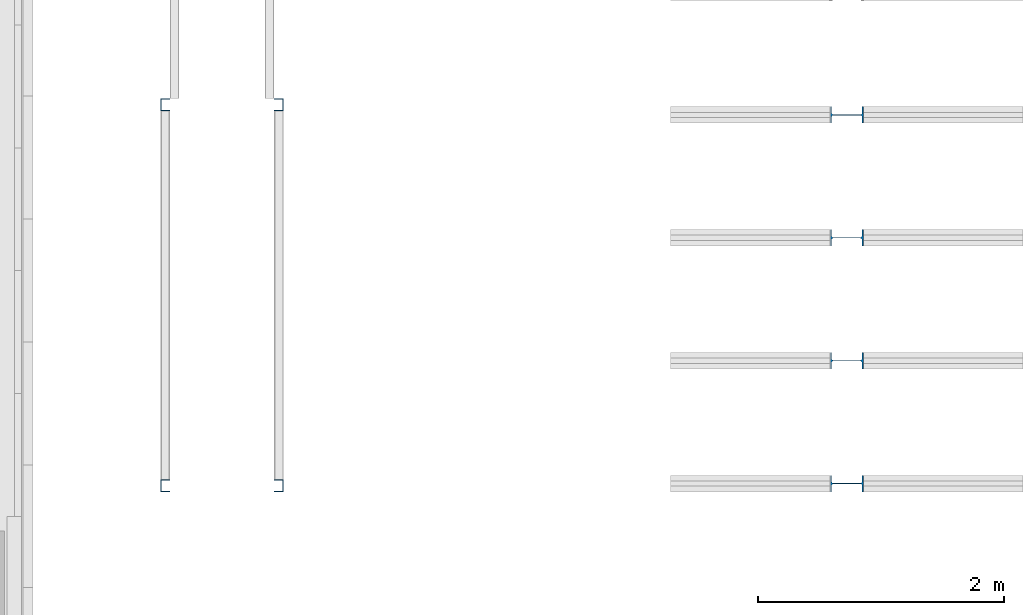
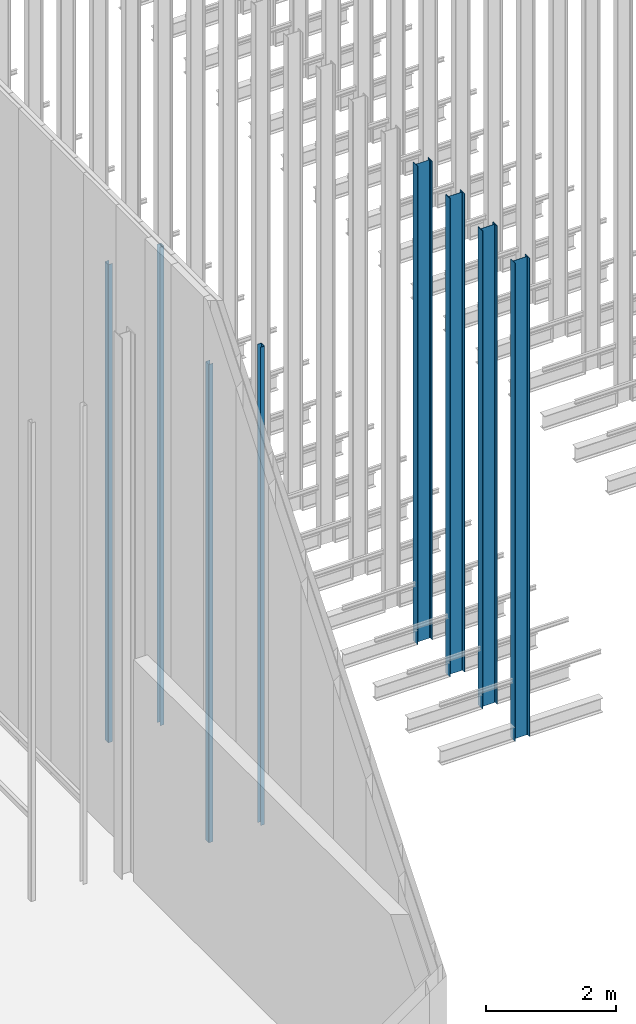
# One storey, part 45 of 302: 8 columns.
"""IFC2X3 building model written with IfcOpenShell, lengths in metres."""

from ifc_helpers import new_model, entity, si_unit, converted_unit, derived_unit, direction, frame, frame_2d, origin, place, context, subcontext, project, spatial, polyline, circle_curve, parameter, trimmed, segment, composite_curve, outline, extrude, source, transform, mapped, material, type_object, type_shapes, element, save


model = new_model("IFC2X3")

# Units and contexts
model_context = context("Model", 3, precision=1e-05, world=origin(), true_north=direction((6.12303176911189e-17, 1.0)))
body_context = subcontext(model_context, "Body", "Model", "MODEL_VIEW")
ifc_project = project(units=[si_unit("LENGTHUNIT", "METRE"), si_unit("AREAUNIT", "SQUARE_METRE"), si_unit("VOLUMEUNIT", "CUBIC_METRE"), converted_unit("PLANEANGLEUNIT", "DEGREE", entity("IfcRatioMeasure", 0.0174532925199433), si_unit("PLANEANGLEUNIT", "RADIAN"), dimensions=[0, 0, 0, 0, 0, 0, 0]), si_unit("MASSUNIT", "GRAM", prefix="KILO"), derived_unit("MASSDENSITYUNIT", [(si_unit("MASSUNIT", "GRAM", prefix="KILO"), 1), (si_unit("LENGTHUNIT", "METRE"), -3)]), derived_unit("MOMENTOFINERTIAUNIT", [(si_unit("LENGTHUNIT", "METRE"), 4)]), si_unit("TIMEUNIT", "SECOND"), si_unit("FREQUENCYUNIT", "HERTZ"), si_unit("THERMODYNAMICTEMPERATUREUNIT", "DEGREE_CELSIUS"), derived_unit("THERMALTRANSMITTANCEUNIT", [(si_unit("MASSUNIT", "GRAM", prefix="KILO"), 1), (si_unit("THERMODYNAMICTEMPERATUREUNIT", "KELVIN"), -1), (si_unit("TIMEUNIT", "SECOND"), -3)]), derived_unit("VOLUMETRICFLOWRATEUNIT", [(si_unit("LENGTHUNIT", "METRE"), 3), (si_unit("TIMEUNIT", "SECOND"), -1)]), si_unit("ELECTRICCURRENTUNIT", "AMPERE"), si_unit("ELECTRICVOLTAGEUNIT", "VOLT"), si_unit("POWERUNIT", "WATT"), si_unit("FORCEUNIT", "NEWTON", prefix="KILO"), si_unit("ILLUMINANCEUNIT", "LUX"), si_unit("LUMINOUSFLUXUNIT", "LUMEN"), si_unit("LUMINOUSINTENSITYUNIT", "CANDELA"), derived_unit("USERDEFINED", [(si_unit("MASSUNIT", "GRAM", prefix="KILO"), -1), (si_unit("LENGTHUNIT", "METRE"), -2), (si_unit("TIMEUNIT", "SECOND"), 3), (si_unit("LUMINOUSFLUXUNIT", "LUMEN"), 1)]), derived_unit("LINEARVELOCITYUNIT", [(si_unit("LENGTHUNIT", "METRE"), 1), (si_unit("TIMEUNIT", "SECOND"), -1)]), si_unit("PRESSUREUNIT", "PASCAL"), derived_unit("USERDEFINED", [(si_unit("LENGTHUNIT", "METRE"), -2), (si_unit("MASSUNIT", "GRAM", prefix="KILO"), 1), (si_unit("TIMEUNIT", "SECOND"), -2)]), derived_unit("LINEARFORCEUNIT", [(si_unit("MASSUNIT", "GRAM", prefix="KILO"), 1), (si_unit("LENGTHUNIT", "METRE"), 1), (si_unit("TIMEUNIT", "SECOND"), -2), (si_unit("LENGTHUNIT", "METRE"), -1)]), derived_unit("PLANARFORCEUNIT", [(si_unit("MASSUNIT", "GRAM", prefix="KILO"), 1), (si_unit("LENGTHUNIT", "METRE"), 1), (si_unit("TIMEUNIT", "SECOND"), -2), (si_unit("LENGTHUNIT", "METRE"), -2)])], contexts=[model_context])

# Site, building, storey
site_placement = place(None, origin())
site = spatial("IfcSite", under=ifc_project, at=site_placement, Name="Default", CompositionType="ELEMENT")
building_placement = place(site_placement, origin())
building = spatial("IfcBuilding", under=site, at=building_placement, CompositionType="ELEMENT")
storey_placement = place(building_placement, frame((0.0, 0.0, -1.3)))
storey = spatial("IfcBuildingStorey", under=building, at=storey_placement, Name="00_EG", CompositionType="ELEMENT", Elevation=-1.3)

# Columns
ifc_material = material(Name="Metall - Baustahl S235")
column_type_1 = type_object("IfcColumnType", Name="Leichter Stahl Schlossschrauben Stütze:C 100", PredefinedType="COLUMN", material=ifc_material)
shared_shape_1 = source(origin(), body_context, "Body", "SweptSolid", [
    extrude(outline(composite_curve([segment(polyline([(-0.0469749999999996, -0.0499999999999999), (0.0214500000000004, -0.0499999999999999)]), True, "CONTINUOUS"), segment(trimmed(circle_curve(frame_2d((0.0214500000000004, -0.0434249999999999), x_axis=(0.0, -1.0)), 0.00657500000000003), [parameter(0.0)], [parameter(89.9999999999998)], True, "PARAMETER"), True, "CONTINUOUS"), segment(polyline([(0.0280250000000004, -0.0434249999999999), (0.0280250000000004, 0.0434250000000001)]), True, "CONTINUOUS"), segment(trimmed(circle_curve(frame_2d((0.0214500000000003, 0.0434250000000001), x_axis=(1.0, 0.0)), 0.0065750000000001), [parameter(0.0)], [parameter(89.9999999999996)], True, "PARAMETER"), True, "CONTINUOUS"), segment(polyline([(0.0214500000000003, 0.0500000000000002), (-0.0469750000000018, 0.0500000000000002)]), True, "CONTINUOUS"), segment(polyline([(-0.0469750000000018, 0.0500000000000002), (-0.0469750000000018, 0.0450000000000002)]), True, "CONTINUOUS"), segment(polyline([(-0.0469750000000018, 0.0450000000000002), (0.0214500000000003, 0.0450000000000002)]), True, "CONTINUOUS"), segment(trimmed(circle_curve(frame_2d((0.0214500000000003, 0.0434249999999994), x_axis=(0.0, 1.0)), 0.00157500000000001), [parameter(269.999999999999)], [parameter(0.0)], True, "PARAMETER"), False, "CONTINUOUS"), segment(polyline([(0.0230250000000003, 0.0434249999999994), (0.0230250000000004, -0.0434249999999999)]), True, "CONTINUOUS"), segment(trimmed(circle_curve(frame_2d((0.0214500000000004, -0.0434249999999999), x_axis=(1.0, 0.0)), 0.00157500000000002), [parameter(270.0)], [parameter(0.0)], True, "PARAMETER"), False, "CONTINUOUS"), segment(polyline([(0.0214500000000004, -0.0449999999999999), (-0.0469749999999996, -0.0449999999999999)]), True, "CONTINUOUS"), segment(polyline([(-0.0469749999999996, -0.0449999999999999), (-0.0469749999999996, -0.0499999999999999)]), True, "CONTINUOUS")], self_intersect=False)), frame((0.0499999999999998, 0.0280250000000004, -0.0300000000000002), z_axis=(0.0, 0.0, 1.0), x_axis=(0.0, -1.0, 0.0)), (0.0, 0.0, 1.0), 9.0),
])
type_shapes(column_type_1, [shared_shape_1])
for number, where, z_axis, x_axis in (
    (1, (-176.230111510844, 27.148088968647, 1.3), (0.0, 0.0, 1.0), (0.0, -1.0, 0.0)),
    (2, (-176.230111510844, 24.048088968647, 1.3), (0.0, 0.0, 1.0), (0.0, -1.0, 0.0)),
):
    element("IfcColumn", number, at=place(storey_placement, frame(where, z_axis=z_axis, x_axis=x_axis)), inside=storey, type_object=column_type_1, material=ifc_material, Name="Leichter Stahl Schlossschrauben Stütze:C 100", ObjectType="Leichter Stahl Schlossschrauben Stütze:C 100", context=body_context, shape_type="MappedRepresentation", body=[
        mapped(shared_shape_1, transform((0.0, 0.0, 0.0), scale=1.0)),
    ])
column_type_2 = type_object("IfcColumnType", Name="Leichter Stahl Schlossschrauben Stütze:C 100", PredefinedType="COLUMN", material=ifc_material)
shared_shape_2 = source(origin(), body_context, "Body", "SweptSolid", [
    extrude(outline(composite_curve([segment(polyline([(-0.0214500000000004, -0.0499999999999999), (0.0469749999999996, -0.0499999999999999)]), True, "CONTINUOUS"), segment(polyline([(0.0469749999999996, -0.0499999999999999), (0.0469749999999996, -0.0449999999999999)]), True, "CONTINUOUS"), segment(polyline([(0.0469749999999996, -0.0449999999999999), (-0.0214500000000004, -0.045)]), True, "CONTINUOUS"), segment(trimmed(circle_curve(frame_2d((-0.0214500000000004, -0.043425), x_axis=(0.0, -1.0)), 0.00157500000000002), [parameter(270.0)], [parameter(0.0)], True, "PARAMETER"), False, "CONTINUOUS"), segment(polyline([(-0.0230250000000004, -0.0434249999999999), (-0.0230250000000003, 0.0434249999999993)]), True, "CONTINUOUS"), segment(trimmed(circle_curve(frame_2d((-0.0214500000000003, 0.0434249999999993), x_axis=(-1.0, 0.0)), 0.00157500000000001), [parameter(269.999999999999)], [parameter(0.0)], True, "PARAMETER"), False, "CONTINUOUS"), segment(polyline([(-0.0214500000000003, 0.0450000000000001), (0.0469750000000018, 0.0450000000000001)]), True, "CONTINUOUS"), segment(polyline([(0.0469750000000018, 0.0450000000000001), (0.0469750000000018, 0.0500000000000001)]), True, "CONTINUOUS"), segment(polyline([(0.0469750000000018, 0.0500000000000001), (-0.0214500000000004, 0.0500000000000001)]), True, "CONTINUOUS"), segment(trimmed(circle_curve(frame_2d((-0.0214500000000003, 0.043425), x_axis=(0.0, 1.0)), 0.0065750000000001), [parameter(0.0)], [parameter(89.9999999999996)], True, "PARAMETER"), True, "CONTINUOUS"), segment(polyline([(-0.0280250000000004, 0.043425), (-0.0280250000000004, -0.043425)]), True, "CONTINUOUS"), segment(trimmed(circle_curve(frame_2d((-0.0214500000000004, -0.0434249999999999), x_axis=(-1.0, 0.0)), 0.00657500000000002), [parameter(0.0)], [parameter(89.9999999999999)], True, "PARAMETER"), True, "CONTINUOUS")], self_intersect=False)), frame((0.0499999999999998, -0.0280250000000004, -0.0300000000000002), z_axis=(0.0, 0.0, 1.0), x_axis=(0.0, -1.0, 0.0)), (0.0, 0.0, 1.0), 9.0),
])
type_shapes(column_type_2, [shared_shape_2])
for number, where, z_axis, x_axis in (
    (3, (-175.230111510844, 27.148088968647, 1.3), (0.0, 0.0, 1.0), (0.0, -1.0, 0.0)),
    (4, (-175.230111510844, 24.048088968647, 1.3), (0.0, 0.0, 1.0), (0.0, -1.0, 0.0)),
):
    element("IfcColumn", number, at=place(storey_placement, frame(where, z_axis=z_axis, x_axis=x_axis)), inside=storey, type_object=column_type_2, material=ifc_material, Name="Leichter Stahl Schlossschrauben Stütze:C 100", ObjectType="Leichter Stahl Schlossschrauben Stütze:C 100", context=body_context, shape_type="MappedRepresentation", body=[
        mapped(shared_shape_2, transform((0.0, 0.0, 0.0), scale=1.0)),
    ])
column_type_3 = type_object("IfcColumnType", Name="IPE Stütze:IPE 270", PredefinedType="COLUMN", material=ifc_material)
shared_shape_3 = source(origin(), body_context, "Body", "SweptSolid", [
    extrude(outline(composite_curve([segment(polyline([(0.1248, -0.0675), (0.135, -0.0675)]), True, "CONTINUOUS"), segment(polyline([(0.135, -0.0675), (0.135, 0.0675)]), True, "CONTINUOUS"), segment(polyline([(0.135, 0.0675), (0.1248, 0.0675)]), True, "CONTINUOUS"), segment(polyline([(0.1248, 0.0675), (0.1248, 0.0183)]), True, "CONTINUOUS"), segment(trimmed(circle_curve(frame_2d((0.1098, 0.0183), x_axis=(1.0, 0.0)), 0.015), [parameter(270.0)], [parameter(0.0)], True, "PARAMETER"), False, "CONTINUOUS"), segment(polyline([(0.1098, 0.0033), (-0.1098, 0.0033)]), True, "CONTINUOUS"), segment(trimmed(circle_curve(frame_2d((-0.1098, 0.0183), x_axis=(0.0, -1.0)), 0.015), [parameter(270.0)], [parameter(0.0)], True, "PARAMETER"), False, "CONTINUOUS"), segment(polyline([(-0.1248, 0.0183), (-0.1248, 0.0675)]), True, "CONTINUOUS"), segment(polyline([(-0.1248, 0.0675), (-0.135, 0.0675)]), True, "CONTINUOUS"), segment(polyline([(-0.135, 0.0675), (-0.135, -0.0675)]), True, "CONTINUOUS"), segment(polyline([(-0.135, -0.0675), (-0.1248, -0.0675)]), True, "CONTINUOUS"), segment(polyline([(-0.1248, -0.0675), (-0.1248, -0.0183)]), True, "CONTINUOUS"), segment(trimmed(circle_curve(frame_2d((-0.1098, -0.0183), x_axis=(-1.0, 0.0)), 0.015), [parameter(269.999999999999)], [parameter(0.0)], True, "PARAMETER"), False, "CONTINUOUS"), segment(polyline([(-0.1098, -0.0033), (0.1098, -0.0033)]), True, "CONTINUOUS"), segment(trimmed(circle_curve(frame_2d((0.1098, -0.0183), x_axis=(0.0, 1.0)), 0.015), [parameter(270.0)], [parameter(0.0)], True, "PARAMETER"), False, "CONTINUOUS"), segment(polyline([(0.1248, -0.0183), (0.1248, -0.0675)]), True, "CONTINUOUS")], self_intersect=False)), frame((0.0, 0.0, -0.0300000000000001), z_axis=(0.0, 0.0, 1.0), x_axis=(0.0, -1.0, 0.0)), (0.0, 0.0, 1.0), 9.0),
])
type_shapes(column_type_3, [shared_shape_3])
for number, where, z_axis, x_axis in (
    (5, (-170.645111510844, 27.015588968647, 1.3), (0.0, 0.0, 1.0), (0.0, 1.0, 0.0)),
    (6, (-170.645111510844, 26.015588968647, 1.3), (0.0, 0.0, 1.0), (0.0, 1.0, 0.0)),
    (7, (-170.645111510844, 25.015588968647, 1.3), (0.0, 0.0, 1.0), (0.0, 1.0, 0.0)),
    (8, (-170.645111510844, 24.015588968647, 1.3), (0.0, 0.0, 1.0), (0.0, 1.0, 0.0)),
):
    element("IfcColumn", number, at=place(storey_placement, frame(where, z_axis=z_axis, x_axis=x_axis)), inside=storey, type_object=column_type_3, material=ifc_material, Name="IPE Stütze:IPE 270", ObjectType="IPE Stütze:IPE 270", context=body_context, shape_type="MappedRepresentation", body=[
        mapped(shared_shape_3, transform((0.0, 0.0, 0.0), scale=1.0)),
    ])

save(model, "model.ifc")
